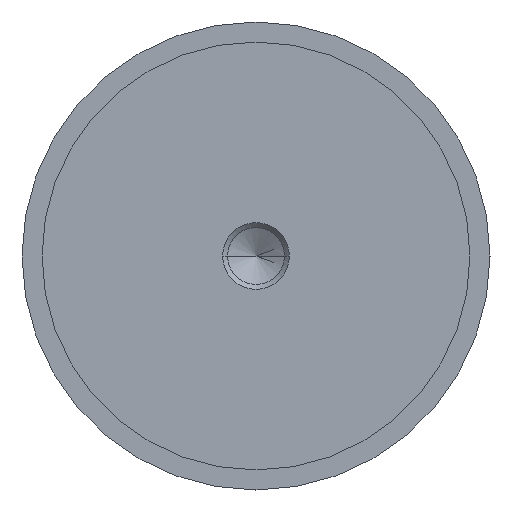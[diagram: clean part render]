
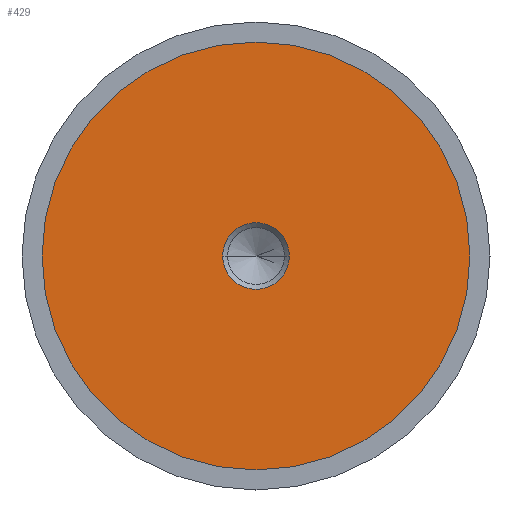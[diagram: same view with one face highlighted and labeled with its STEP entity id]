
A CAD part, left-side view. The second image highlights one B-rep face of the part: STEP entity #429.
In plain terms, the highlighted planar face has unit normal (-1, 0, 0).
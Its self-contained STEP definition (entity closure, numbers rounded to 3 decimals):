
#3 = DIRECTION ( 'NONE',  ( -1., 0., 0. ) ) ;
#41 = AXIS2_PLACEMENT_3D ( 'NONE', #358, #3, #651 ) ;
#42 = DIRECTION ( 'NONE',  ( 0., 0., -1. ) ) ;
#86 = PLANE ( 'NONE',  #372 ) ;
#93 = DIRECTION ( 'NONE',  ( 0., 0., -1. ) ) ;
#115 = ORIENTED_EDGE ( 'NONE', *, *, #616, .T. ) ;
#130 = AXIS2_PLACEMENT_3D ( 'NONE', #735, #383, #425 ) ;
#200 = DIRECTION ( 'NONE',  ( 0., 0., -1. ) ) ;
#269 = DIRECTION ( 'NONE',  ( 1., 0., 0. ) ) ;
#282 = EDGE_LOOP ( 'NONE', ( #414, #515 ) ) ;
#295 = EDGE_CURVE ( 'NONE', #737, #458, #391, .T. ) ;
#314 = FACE_OUTER_BOUND ( 'NONE', #282, .T. ) ;
#316 = CARTESIAN_POINT ( 'NONE',  ( -14.99, 0., -32. ) ) ;
#348 = EDGE_CURVE ( 'NONE', #598, #362, #745, .T. ) ;
#358 = CARTESIAN_POINT ( 'NONE',  ( -14.99, 0., 0. ) ) ;
#362 = VERTEX_POINT ( 'NONE', #536 ) ;
#367 = CARTESIAN_POINT ( 'NONE',  ( -14.99, 0., 0. ) ) ;
#370 = DIRECTION ( 'NONE',  ( 1., 0., 0. ) ) ;
#372 = AXIS2_PLACEMENT_3D ( 'NONE', #756, #269, #93 ) ;
#383 = DIRECTION ( 'NONE',  ( -1., 0., 0. ) ) ;
#391 = CIRCLE ( 'NONE', #524, 4.99 ) ;
#403 = CARTESIAN_POINT ( 'NONE',  ( -14.99, 0., 0. ) ) ;
#414 = ORIENTED_EDGE ( 'NONE', *, *, #738, .T. ) ;
#425 = DIRECTION ( 'NONE',  ( 0., 0., 1. ) ) ;
#429 = ADVANCED_FACE ( 'NONE', ( #507, #314 ), #86, .F. ) ;
#444 = ORIENTED_EDGE ( 'NONE', *, *, #295, .T. ) ;
#458 = VERTEX_POINT ( 'NONE', #608 ) ;
#478 = EDGE_LOOP ( 'NONE', ( #115, #444 ) ) ;
#507 = FACE_BOUND ( 'NONE', #478, .T. ) ;
#515 = ORIENTED_EDGE ( 'NONE', *, *, #348, .T. ) ;
#524 = AXIS2_PLACEMENT_3D ( 'NONE', #403, #584, #42 ) ;
#536 = CARTESIAN_POINT ( 'NONE',  ( -14.99, 0., 32. ) ) ;
#542 = CIRCLE ( 'NONE', #649, 4.99 ) ;
#573 = CIRCLE ( 'NONE', #130, 32. ) ;
#584 = DIRECTION ( 'NONE',  ( 1., 0., 0. ) ) ;
#598 = VERTEX_POINT ( 'NONE', #316 ) ;
#608 = CARTESIAN_POINT ( 'NONE',  ( -14.99, -4.99, 0. ) ) ;
#616 = EDGE_CURVE ( 'NONE', #458, #737, #542, .T. ) ;
#649 = AXIS2_PLACEMENT_3D ( 'NONE', #367, #370, #200 ) ;
#651 = DIRECTION ( 'NONE',  ( 0., 0., 1. ) ) ;
#735 = CARTESIAN_POINT ( 'NONE',  ( -14.99, 0., 0. ) ) ;
#737 = VERTEX_POINT ( 'NONE', #740 ) ;
#738 = EDGE_CURVE ( 'NONE', #362, #598, #573, .T. ) ;
#740 = CARTESIAN_POINT ( 'NONE',  ( -14.99, 4.99, 0. ) ) ;
#745 = CIRCLE ( 'NONE', #41, 32. ) ;
#756 = CARTESIAN_POINT ( 'NONE',  ( -14.99, 32., 0. ) ) ;
